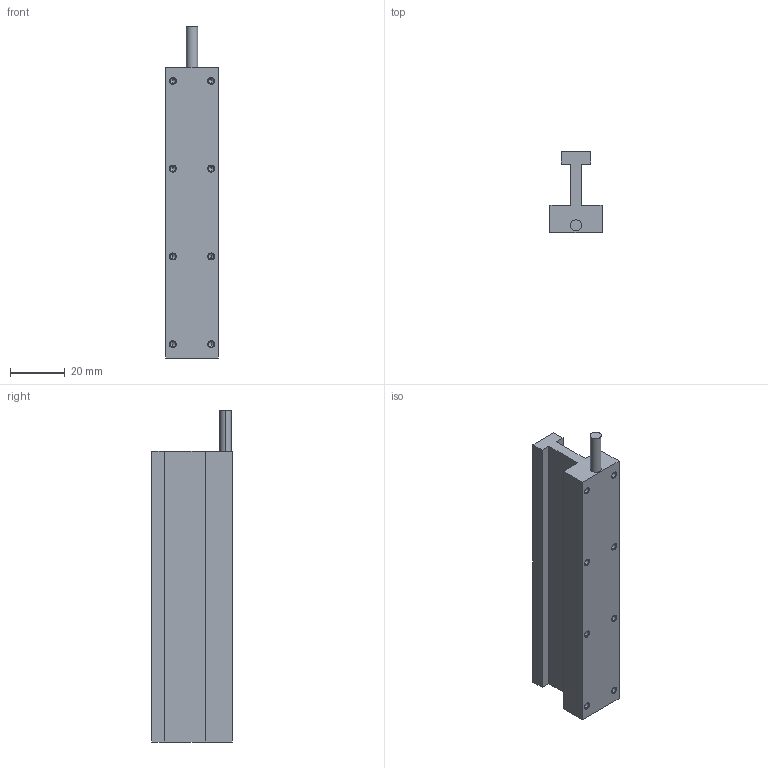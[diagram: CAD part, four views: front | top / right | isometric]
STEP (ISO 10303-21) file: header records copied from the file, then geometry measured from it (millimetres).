
FILE_DESCRIPTION (( 'STEP AP214' ), '1' );
FILE_NAME ('JKA15.STEP', '2025-09-05T12:36:13', ( '' ), ( '' ), 'SwSTEP 2.0', 'SolidWorks 2016', '' );
FILE_SCHEMA (( 'AUTOMOTIVE_DESIGN' ));
Length unit declared in the file: millimetre
Products named in the file (1): JKA15
Bounding box: 19 x 29.5 x 121 mm (x, y, z)
Volume: 31537.7 mm3; surface area: 12787.1 mm2
Topology: 1 solids, 1 shells, 65 faces, 154 edges, 84 vertices
Faces by surface type: cone 32, cylinder 18, plane 15
Entity records: 1942 total; most frequent: DIRECTION 322, CARTESIAN_POINT 288, ORIENTED_EDGE 276, EDGE_CURVE 138, AXIS2_PLACEMENT_3D 118, VECTOR 86, LINE 86, VERTEX_POINT 84
